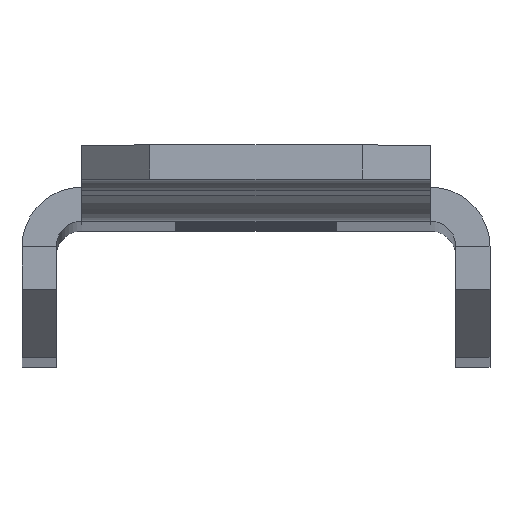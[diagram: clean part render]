
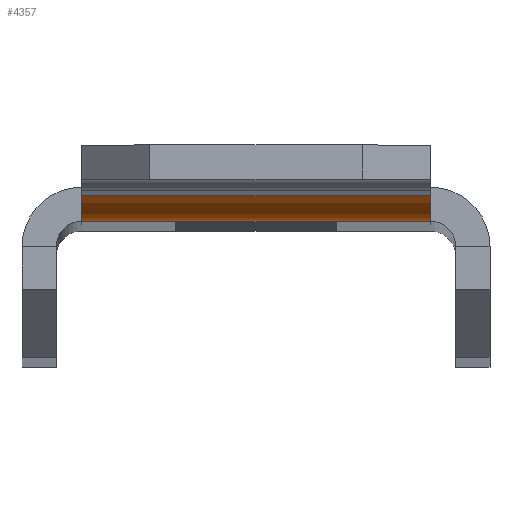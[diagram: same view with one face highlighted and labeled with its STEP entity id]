
A CAD part, top view. The second image highlights one B-rep face of the part: STEP entity #4357.
In plain terms, the highlighted cylindrical face has radius 3.5 mm (diameter 7 mm), a partial arc.
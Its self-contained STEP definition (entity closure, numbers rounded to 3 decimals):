
#152 = CARTESIAN_POINT ( 'NONE',  ( 10.25, -2., 164.678 ) ) ;
#222 = VERTEX_POINT ( 'NONE', #1867 ) ;
#232 = ORIENTED_EDGE ( 'NONE', *, *, #3610, .T. ) ;
#307 = DIRECTION ( 'NONE',  ( -1., 0., 0. ) ) ;
#359 = VECTOR ( 'NONE', #307, 1000. ) ;
#472 = VERTEX_POINT ( 'NONE', #152 ) ;
#556 = CARTESIAN_POINT ( 'NONE',  ( -10.25, 1.5, 164.678 ) ) ;
#614 = AXIS2_PLACEMENT_3D ( 'NONE', #1751, #2128, #2182 ) ;
#799 = AXIS2_PLACEMENT_3D ( 'NONE', #556, #3157, #4581 ) ;
#993 = ORIENTED_EDGE ( 'NONE', *, *, #3895, .F. ) ;
#1149 = DIRECTION ( 'NONE',  ( 0., -0.574, 0.819 ) ) ;
#1164 = CARTESIAN_POINT ( 'NONE',  ( 10.25, 1.5, 164.678 ) ) ;
#1381 = VECTOR ( 'NONE', #2620, 1000. ) ;
#1537 = DIRECTION ( 'NONE',  ( 1., 0., 0. ) ) ;
#1587 = VERTEX_POINT ( 'NONE', #3221 ) ;
#1622 = ORIENTED_EDGE ( 'NONE', *, *, #3115, .F. ) ;
#1751 = CARTESIAN_POINT ( 'NONE',  ( 10.25, 1.5, 164.678 ) ) ;
#1867 = CARTESIAN_POINT ( 'NONE',  ( 10.25, -0.508, 167.545 ) ) ;
#1872 = CIRCLE ( 'NONE', #799, 3.5 ) ;
#2041 = FACE_OUTER_BOUND ( 'NONE', #2103, .T. ) ;
#2103 = EDGE_LOOP ( 'NONE', ( #3429, #993, #232, #1622 ) ) ;
#2128 = DIRECTION ( 'NONE',  ( 1., 0., 0. ) ) ;
#2182 = DIRECTION ( 'NONE',  ( 0., 0., -1. ) ) ;
#2247 = CARTESIAN_POINT ( 'NONE',  ( -10.25, -0.508, 167.545 ) ) ;
#2484 = CARTESIAN_POINT ( 'NONE',  ( 10.25, -2., 164.678 ) ) ;
#2597 = LINE ( 'NONE', #2247, #1381 ) ;
#2620 = DIRECTION ( 'NONE',  ( -1., 0., 0. ) ) ;
#2766 = VERTEX_POINT ( 'NONE', #3144 ) ;
#2823 = CYLINDRICAL_SURFACE ( 'NONE', #3155, 3.5 ) ;
#2937 = LINE ( 'NONE', #2484, #359 ) ;
#3115 = EDGE_CURVE ( 'NONE', #2766, #1587, #1872, .T. ) ;
#3144 = CARTESIAN_POINT ( 'NONE',  ( -10.25, -2., 164.678 ) ) ;
#3155 = AXIS2_PLACEMENT_3D ( 'NONE', #1164, #1537, #1149 ) ;
#3157 = DIRECTION ( 'NONE',  ( -1., 0., 0. ) ) ;
#3214 = CIRCLE ( 'NONE', #614, 3.5 ) ;
#3221 = CARTESIAN_POINT ( 'NONE',  ( -10.25, -0.508, 167.545 ) ) ;
#3429 = ORIENTED_EDGE ( 'NONE', *, *, #3920, .F. ) ;
#3610 = EDGE_CURVE ( 'NONE', #222, #1587, #2597, .T. ) ;
#3895 = EDGE_CURVE ( 'NONE', #222, #472, #3214, .T. ) ;
#3920 = EDGE_CURVE ( 'NONE', #472, #2766, #2937, .T. ) ;
#4357 = ADVANCED_FACE ( 'NONE', ( #2041 ), #2823, .T. ) ;
#4581 = DIRECTION ( 'NONE',  ( 0., 0., -1. ) ) ;
